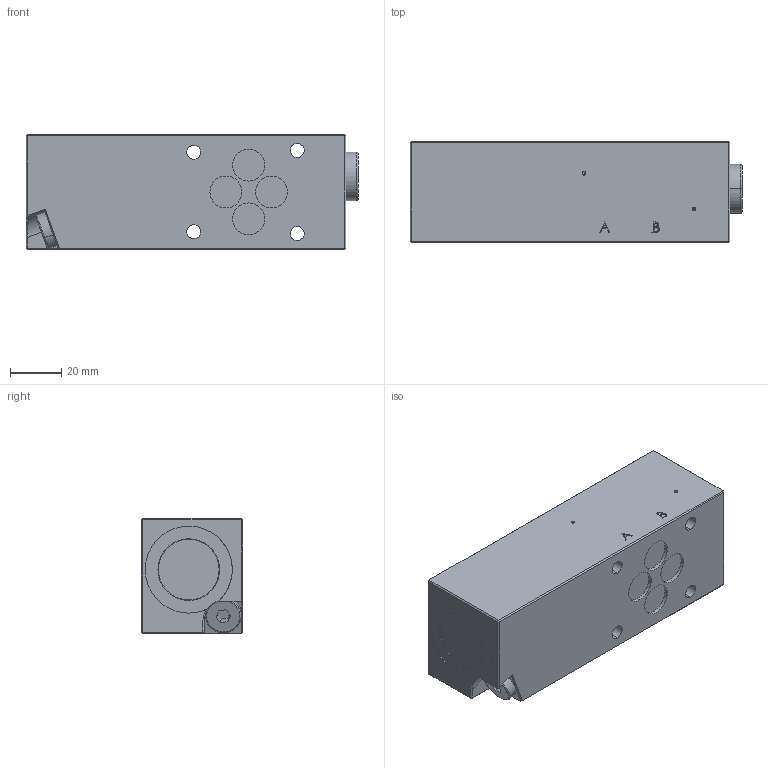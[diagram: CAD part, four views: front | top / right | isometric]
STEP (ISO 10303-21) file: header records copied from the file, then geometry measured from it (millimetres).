
FILE_DESCRIPTION (( 'STEP AP214' ), '1' );
FILE_NAME ('M..SA06-P.STEP', '2024-03-28T09:49:52', ( '' ), ( '' ), 'SwSTEP 2.0', 'SolidWorks 2022', '' );
FILE_SCHEMA (( 'AUTOMOTIVE_DESIGN' ));
Length unit declared in the file: millimetre
Products named in the file (1): M..SA06-P
Bounding box: 129.7 x 39.5 x 45 mm (x, y, z)
Volume: 216565.8 mm3; surface area: 29394.1 mm2
Topology: 2 solids, 7 shells, 232 faces, 524 edges, 326 vertices
Faces by surface type: plane 110, cylinder 80, cone 16, bspline 10, torus 8, sphere 8
Entity records: 9534 total; most frequent: CARTESIAN_POINT 1806, DIRECTION 1134, ORIENTED_EDGE 1028, EDGE_CURVE 514, AXIS2_PLACEMENT_3D 422, VERTEX_POINT 326, VECTOR 290, LINE 290
